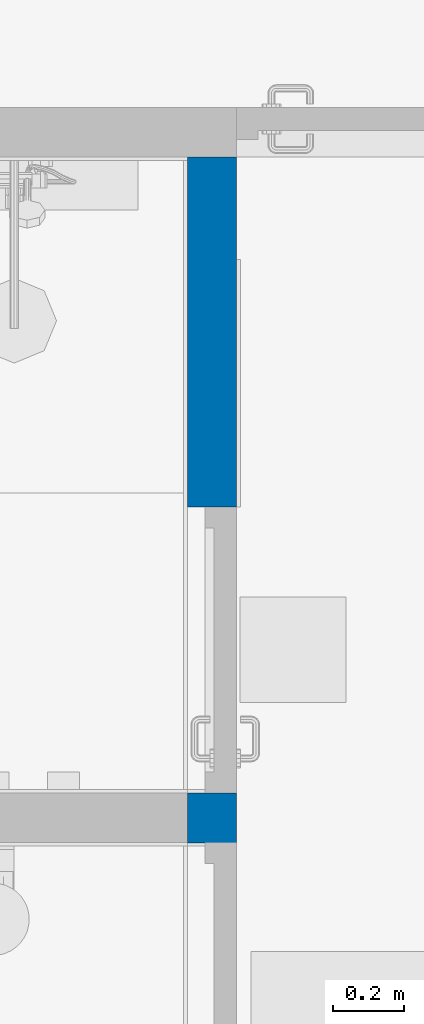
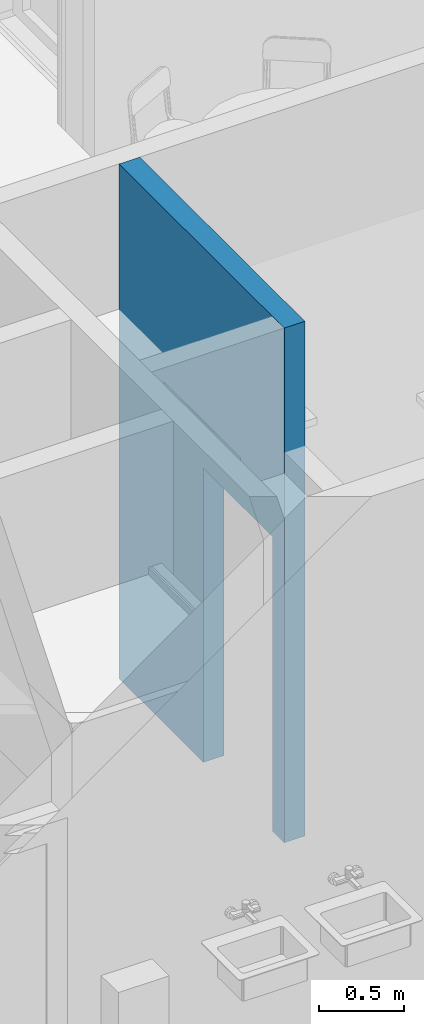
# One storey, part 11 of 301: 1 wall, 1 opening.
"""IFC2X3 building model written with IfcOpenShell, lengths in millimetres."""

from ifc_helpers import new_model, entity, si_unit, converted_unit, derived_unit, money_unit, direction, frame, origin_with_axes, place, context, subcontext, project, spatial, faceted_brep, material, type_object, element, save


model = new_model("IFC2X3")

# Units and contexts
model_context = context("Model", 3, precision=0.01, world=origin_with_axes(), true_north=direction((0.0, 1.0)))
body_context = subcontext(model_context, "Body", "Model", "MODEL_VIEW")
ifc_project = project(units=[si_unit("LENGTHUNIT", "METRE", prefix="MILLI"), si_unit("AREAUNIT", "SQUARE_METRE"), si_unit("VOLUMEUNIT", "CUBIC_METRE"), converted_unit("PLANEANGLEUNIT", "DEGREE", entity("IfcPlaneAngleMeasure", 0.0174532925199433), si_unit("PLANEANGLEUNIT", "RADIAN"), dimensions=[0, 0, 0, 0, 0, 0, 0]), money_unit("EUR"), converted_unit("TIMEUNIT", "Year", entity("IfcTimeMeasure", 31557600.0), si_unit("TIMEUNIT", "SECOND"), dimensions=[0, 0, 1, 0, 0, 0, 0]), si_unit("MASSUNIT", "GRAM", prefix="KILO"), si_unit("THERMODYNAMICTEMPERATUREUNIT", "DEGREE_CELSIUS"), si_unit("LUMINOUSINTENSITYUNIT", "LUMEN"), si_unit("ENERGYUNIT", "JOULE", prefix="MEGA"), derived_unit("THERMALCONDUCTANCEUNIT", [(si_unit("POWERUNIT", "WATT"), 1), (si_unit("LENGTHUNIT", "METRE"), -1), (si_unit("THERMODYNAMICTEMPERATUREUNIT", "KELVIN"), -1)]), derived_unit("SPECIFICHEATCAPACITYUNIT", [(si_unit("ENERGYUNIT", "JOULE"), 1), (si_unit("MASSUNIT", "GRAM", prefix="KILO"), -1), (si_unit("THERMODYNAMICTEMPERATUREUNIT", "KELVIN"), -1)]), derived_unit("MASSDENSITYUNIT", [(si_unit("MASSUNIT", "GRAM", prefix="KILO"), 1), (si_unit("VOLUMEUNIT", "CUBIC_METRE"), -1)])], contexts=[model_context])

# Site, building, storey
site_placement = place(None, frame((0.0, 0.0, 8650.0), z_axis=(0.0, 0.0, 1.0), x_axis=(1.0, 0.0, 0.0)))
site = spatial("IfcSite", under=ifc_project, at=site_placement, Name="43301:001:0844", CompositionType="ELEMENT")
building_placement = place(site_placement, origin_with_axes())
building = spatial("IfcBuilding", under=site, at=building_placement, Name="Kuressaare Ametikooli tuulikute mehaanikute õppekorpus", CompositionType="ELEMENT")
storey_placement = place(building_placement, origin_with_axes())
storey = spatial("IfcBuildingStorey", under=building, at=storey_placement, Name="1.korrus", CompositionType="ELEMENT", Elevation=0.0)

# Wall, opening
ifc_material = material(Name="Betoonõõnesplokk")
wall_type = type_object("IfcWallType", Name="SS-1.2 140", PredefinedType="NOTDEFINED")
wall_placement = place(storey_placement, frame((127545.2610406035, 23574.0689239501, 0.0), z_axis=(0.0, 0.0, 1.0), x_axis=(0.0, -1.0, 0.0)))
wall = element("IfcWall", 1, at=wall_placement, inside=storey, type_object=wall_type, material=ifc_material, Name="Sisesein", context=body_context, shape_type="Brep", body=[
    faceted_brep([(1799.999999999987, 140.0000000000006, 0.0), (1799.999999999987, 140.0000000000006, 2110.0), (989.9999999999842, 140.0000000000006, 2110.0), (989.9999999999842, 140.0000000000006, 0.0), (0.0, 140.0000000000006, 0.0), (0.0, 140.0000000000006, 3690.0), (1941.027604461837, 140.0000000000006, 3690.0), (1941.027604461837, 140.0000000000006, 0.0), (1799.999999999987, 0.0, 0.0), (1799.999999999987, 0.0, 2110.0), (989.9999999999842, 0.0, 2110.0), (989.9999999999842, 0.0, 0.0), (0.0, 0.0, 0.0), (0.0, 0.0, 3690.0), (1941.027604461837, 0.0, 3690.0), (1941.027604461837, 0.0, 0.0)], [[[0, 1, 2, 3, 4, 5, 6, 7]], [[1, 0, 8, 9]], [[2, 1, 9, 10]], [[3, 2, 10, 11]], [[3, 11, 12, 4]], [[5, 4, 12, 13]], [[5, 13, 14, 6]], [[7, 6, 14, 15]], [[8, 0, 7, 15]], [[9, 8, 15, 14, 13, 12, 11, 10]]]),
])
opening_placement = place(wall_placement, frame((1394.999999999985, 0.0, 0.0), z_axis=(0.0, 0.0, 1.0), x_axis=(1.0, 0.0, 0.0)))
element("IfcOpeningElement", 2, at=opening_placement, cuts=wall, Name="NU8", context=body_context, shape_type="Brep", body=[
    faceted_brep([(-405.0000000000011, -1.000000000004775, 2110.0), (-405.0000000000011, -1.000000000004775, 0.0), (405.0000000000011, -1.000000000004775, 0.0), (405.0000000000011, -1.000000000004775, 2110.0), (-405.0000000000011, 141.0000000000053, 2110.0), (-405.0000000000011, 141.0000000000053, 0.0), (405.0000000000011, 141.0000000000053, 0.0), (405.0000000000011, 141.0000000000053, 2110.0)], [[[0, 1, 2, 3]], [[4, 5, 1, 0]], [[5, 6, 2, 1]], [[6, 7, 3, 2]], [[7, 4, 0, 3]], [[6, 5, 4, 7]]]),
])

save(model, "model.ifc")
